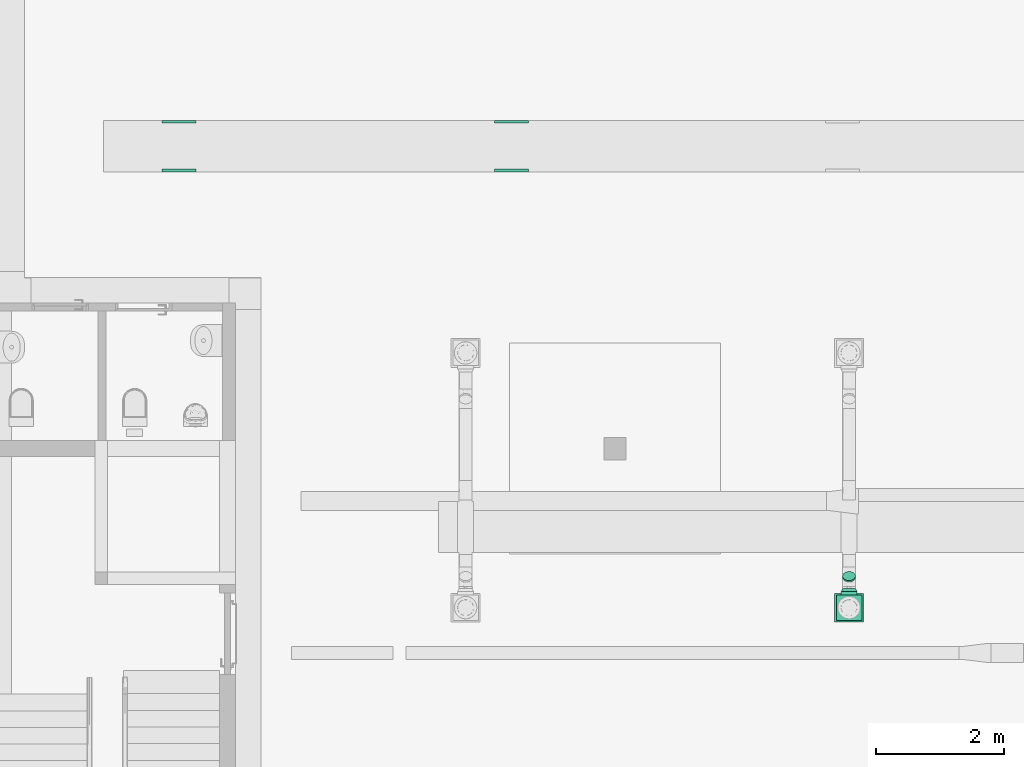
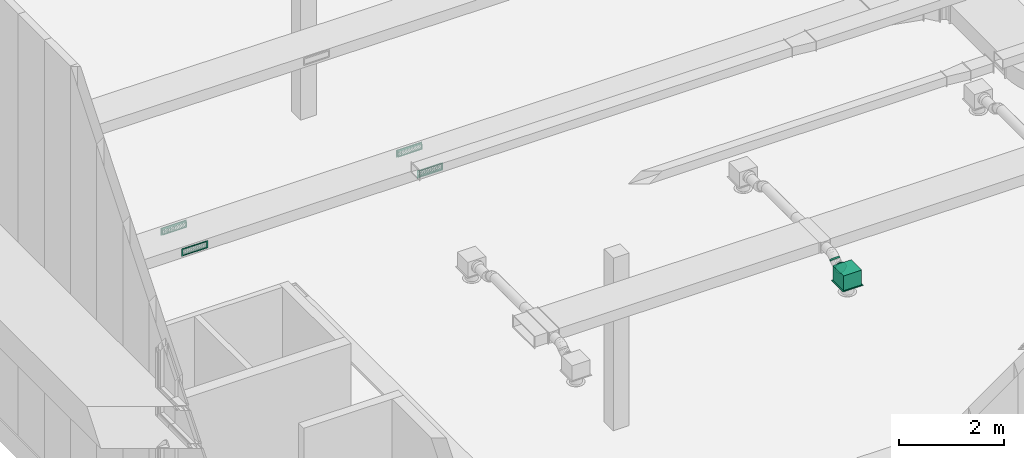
# One storey, part 261 of 302: 5 flow terminals, 1 flow fitting, 1 flow segment.
"""IFC2X3 building model written with IfcOpenShell, lengths in metres."""

import ifcopenshell
import ifcopenshell.guid

model = None  # the IFC model being written
_history = None  # IfcOwnerHistory: only IFC2X3 demands one
_inside = {}  # id of a spatial element -> (the spatial element, [elements in it])
_under = {}  # id of a project, library or spatial element -> (it, [spatial elements below it])
_declared = {}  # id of a project -> (the project, [libraries it declares])
_typed = {}  # id of a type object -> (the type object, [elements of that type])
_made_of = {}  # id of a material, layer set ... -> (it, [elements and type objects made of it])


def new_model(schema):
    """Start an empty IFC model of exactly this schema.

    Asked for "IFC4X3", IfcOpenShell would pick the latest addendum, in which some entities
    have other attributes; the version numbers below select the first issue.
    IFC2X3 requires an IfcOwnerHistory on every rooted entity: one is made here for all.
    """
    global model, _history
    if schema == "IFC4X3":
        model = ifcopenshell.file(schema_version=(4, 3, 0, 0))
    else:
        model = ifcopenshell.file(schema=schema)
    _inside.clear()
    _under.clear()
    _declared.clear()
    _typed.clear()
    _made_of.clear()
    _history = None
    if model.schema == "IFC2X3":
        org = make("IfcOrganization", Name="unknown")
        user = make(
            "IfcPersonAndOrganization",
            ThePerson=make("IfcPerson", FamilyName="unknown"),
            TheOrganization=org,
        )
        app = make(
            "IfcApplication",
            ApplicationDeveloper=org,
            Version="unknown",
            ApplicationFullName="unknown",
            ApplicationIdentifier="unknown",
        )
        _history = make(
            "IfcOwnerHistory",
            OwningUser=user,
            OwningApplication=app,
            ChangeAction="ADDED",
            CreationDate=0,
        )
    return model


def make(cls, **values):
    """One entity of the class cls with the attributes given. An attribute that is None is left unset."""
    return model.create_entity(
        cls, **{name: value for name, value in values.items() if value is not None}
    )


def entity(cls, *values):
    """Any entity or typed value of the class cls, its attributes in the order of the schema. None: left unset."""
    e = model.create_entity(cls)
    for i, value in enumerate(values):
        if value is not None:
            e[i] = value
    return e


def rooted(cls, **values):
    """An entity with a GlobalId (a new one), such as an element, a storey or a relation."""
    return make(cls, GlobalId=ifcopenshell.guid.new(), OwnerHistory=_history, **values)


def si_unit(unit_type, name, prefix=None):
    """IfcSIUnit, for example si_unit("LENGTHUNIT", "METRE", prefix="MILLI")."""
    return make("IfcSIUnit", UnitType=unit_type, Prefix=prefix, Name=name)


def converted_unit(unit_type, name, factor, base, dimensions=None, offset=None):
    """IfcConversionBasedUnit, such as the inch: factor (a typed value) times the base unit."""
    return make(
        "IfcConversionBasedUnit"
        if offset is None
        else "IfcConversionBasedUnitWithOffset",
        ConversionOffset=offset,
        Dimensions=None
        if dimensions is None
        else entity("IfcDimensionalExponents", *dimensions),
        UnitType=unit_type,
        Name=name,
        ConversionFactor=make(
            "IfcMeasureWithUnit", ValueComponent=factor, UnitComponent=base
        ),
    )


def derived_unit(unit_type, elements):
    """IfcDerivedUnit: a product of units, each with its exponent."""
    return make(
        "IfcDerivedUnit",
        Elements=[
            make("IfcDerivedUnitElement", Unit=unit, Exponent=power)
            for unit, power in elements
        ],
        UnitType=unit_type,
    )


def assignment(units):
    """IfcUnitAssignment: the units of a project."""
    return None if units is None else make("IfcUnitAssignment", Units=units)


def point(xyz):
    """IfcCartesianPoint."""
    return None if xyz is None else make("IfcCartesianPoint", Coordinates=xyz)


def direction(xyz):
    """IfcDirection."""
    return None if xyz is None else make("IfcDirection", DirectionRatios=xyz)


def frame(location, z_axis=None, x_axis=None):
    """IfcAxis2Placement3D, a coordinate frame: its origin and axes. An axis left out is left unset."""
    return make(
        "IfcAxis2Placement3D",
        Location=point(location),
        Axis=direction(z_axis),
        RefDirection=direction(x_axis),
    )


def frame_2d(location, x_axis=None):
    """IfcAxis2Placement2D, a coordinate frame in the plane: its origin and x axis."""
    return make(
        "IfcAxis2Placement2D", Location=point(location), RefDirection=direction(x_axis)
    )


def origin():
    """The frame at (0, 0, 0) with its axes left unset."""
    return frame((0.0, 0.0, 0.0))


def origin_2d_with_axis():
    """The frame at (0, 0) in the plane with the x axis (1, 0) written out."""
    return frame_2d((0.0, 0.0), x_axis=(1.0, 0.0))


def place(relative_to, where):
    """IfcLocalPlacement: puts the frame where relative to a parent placement (None: the world)."""
    return make(
        "IfcLocalPlacement", PlacementRelTo=relative_to, RelativePlacement=where
    )


def context(
    kind, dimensions, precision=None, world=None, true_north=None, identifier=None
):
    """IfcGeometricRepresentationContext, for example the 3D "Model" context."""
    return make(
        "IfcGeometricRepresentationContext",
        ContextIdentifier=identifier,
        ContextType=kind,
        CoordinateSpaceDimension=dimensions,
        Precision=precision,
        WorldCoordinateSystem=world,
        TrueNorth=true_north,
    )


def subcontext(parent, identifier, kind, view, scale=None):
    """IfcGeometricRepresentationSubContext, for example "Body" below "Model"."""
    return make(
        "IfcGeometricRepresentationSubContext",
        ContextIdentifier=identifier,
        ContextType=kind,
        ParentContext=parent,
        TargetScale=scale,
        TargetView=view,
    )


def project(units=None, contexts=None):
    """IfcProject with its units and contexts."""
    return rooted(
        "IfcProject",
        Name="project",
        RepresentationContexts=contexts,
        UnitsInContext=assignment(units),
    )


def spatial(cls, under=None, at=None, **own):
    """A site, building, storey or space (cls), placed at a placement, below another one or the project."""
    s = rooted(cls, ObjectPlacement=at, **own)
    if under is not None:
        _under.setdefault(under.id(), (under, []))[1].append(s)
    return s


def polyline(points):
    """IfcPolyline through the points."""
    return make("IfcPolyline", Points=[point(p) for p in points])


def circle_curve(where, radius):
    """IfcCircle in the frame where."""
    return make("IfcCircle", Position=where, Radius=radius)


def parameter(value):
    """IfcParameterValue: where a trimmed curve begins or ends, as a parameter of its basis curve."""
    return model.create_entity("IfcParameterValue", value)


def trimmed(basis, trim1, trim2, sense, master):
    """IfcTrimmedCurve: the piece of a basis curve between two trims."""
    return make(
        "IfcTrimmedCurve",
        BasisCurve=basis,
        Trim1=trim1,
        Trim2=trim2,
        SenseAgreement=sense,
        MasterRepresentation=master,
    )


def segment(curve, same_sense, transition):
    """IfcCompositeCurveSegment."""
    return make(
        "IfcCompositeCurveSegment",
        Transition=transition,
        SameSense=same_sense,
        ParentCurve=curve,
    )


def composite_curve(segments, self_intersect=None):
    """IfcCompositeCurve: segments joined end to end."""
    return make("IfcCompositeCurve", Segments=segments, SelfIntersect=self_intersect)


def profile(cls, at=None, kind="AREA", **sizes):
    """A parametric profile (cls). Its sizes go by their IFC names, for example OverallWidth=200.0."""
    return make(cls, ProfileType=kind, Position=at, **sizes)


def rectangle(**sizes):
    """IfcRectangleProfileDef."""
    return profile("IfcRectangleProfileDef", **sizes)


def circle(**sizes):
    """IfcCircleProfileDef."""
    return profile("IfcCircleProfileDef", **sizes)


def outline(outer, holes=None, kind="AREA"):
    """IfcArbitraryClosedProfileDef: a profile drawn as a closed curve; with holes, ...WithVoids."""
    if holes is None:
        return make("IfcArbitraryClosedProfileDef", ProfileType=kind, OuterCurve=outer)
    return make(
        "IfcArbitraryProfileDefWithVoids",
        ProfileType=kind,
        OuterCurve=outer,
        InnerCurves=holes,
    )


def extrude(swept, where, along, depth):
    """IfcExtrudedAreaSolid: the profile swept, set in the frame where, extruded along a direction by depth."""
    return make(
        "IfcExtrudedAreaSolid",
        SweptArea=swept,
        Position=where,
        ExtrudedDirection=direction(along),
        Depth=depth,
    )


def faces_of(points, faces, orient=None, outer=None):
    """IfcFace entities. A face is a list of loops; a loop is a list of indices into points, from 0.

    orient and outer hold one flag for each loop. By default every Orientation is true, the
    first loop of a face is its IfcFaceOuterBound and the others are IfcFaceBound.
    """
    made = []
    for i, loops in enumerate(faces):
        bounds = []
        for j, loop in enumerate(loops):
            is_outer = j == 0 if outer is None else outer[i][j]
            bounds.append(
                make(
                    "IfcFaceOuterBound" if is_outer else "IfcFaceBound",
                    Bound=make("IfcPolyLoop", Polygon=[points[k] for k in loop]),
                    Orientation=True if orient is None else orient[i][j],
                )
            )
        made.append(make("IfcFace", Bounds=bounds))
    return made


def faceted_brep(points, faces, orient=None, outer=None, voids=None):
    """IfcFacetedBrep: a solid bounded by flat faces; with voids (closed shells), ...WithVoids."""
    shared = [point(p) for p in points]
    hull = make("IfcClosedShell", CfsFaces=faces_of(shared, faces, orient, outer))
    if voids is None:
        return make("IfcFacetedBrep", Outer=hull)
    return make(
        "IfcFacetedBrepWithVoids",
        Outer=hull,
        Voids=[
            make(cls, CfsFaces=faces_of(shared, fs, o, b)) for cls, fs, o, b in voids
        ],
    )


def shape(context_of_items, identifier, shape_type, items):
    """IfcShapeRepresentation: the items that make up one representation, for example the "Body"."""
    return make(
        "IfcShapeRepresentation",
        ContextOfItems=context_of_items,
        RepresentationIdentifier=identifier,
        RepresentationType=shape_type,
        Items=items,
    )


def source(mapping_origin, context_of_items, identifier, shape_type, items):
    """IfcRepresentationMap: a shape defined once, which mapped items show again and again."""
    return make(
        "IfcRepresentationMap",
        MappingOrigin=mapping_origin,
        MappedRepresentation=shape(context_of_items, identifier, shape_type, items),
    )


def transform(
    local_origin,
    x_axis=None,
    y_axis=None,
    z_axis=None,
    scale=None,
    scale2=None,
    scale3=None,
    uniform=True,
):
    """IfcCartesianTransformationOperator3D, or its non-uniform kind. x_axis, y_axis, z_axis: its Axis1, 2, 3."""
    if uniform:
        return make(
            "IfcCartesianTransformationOperator3D",
            Axis1=direction(x_axis),
            Axis2=direction(y_axis),
            LocalOrigin=point(local_origin),
            Scale=scale,
            Axis3=direction(z_axis),
        )
    return make(
        "IfcCartesianTransformationOperator3DnonUniform",
        Axis1=direction(x_axis),
        Axis2=direction(y_axis),
        LocalOrigin=point(local_origin),
        Scale=scale,
        Axis3=direction(z_axis),
        Scale2=scale2,
        Scale3=scale3,
    )


def mapped(mapping_source, mapping_target):
    """IfcMappedItem: shows the shape of a source again, moved by a transform."""
    return make(
        "IfcMappedItem", MappingSource=mapping_source, MappingTarget=mapping_target
    )


def material(Name=None, Category=None):
    """IfcMaterial."""
    return make("IfcMaterial", Name=Name, Category=Category)


def material_list(materials):
    """IfcMaterialList."""
    return make("IfcMaterialList", Materials=materials)


def made_of(thing, what):
    """Note that an element or type object is made of a material, layer set ...; save() writes the relation."""
    if what is not None:
        _made_of.setdefault(what.id(), (what, []))[1].append(thing)
    return thing


def type_object(cls, material=None, **own):
    """A type object (cls), such as IfcWallType, which elements share."""
    return made_of(rooted(cls, **own), material)


def type_shapes(of_type, sources):
    """Give a type object the sources (RepresentationMaps) that its elements show as mapped items."""
    of_type.RepresentationMaps = sources


def element(
    cls,
    number,
    at=None,
    inside=None,
    cuts=None,
    type_object=None,
    material=None,
    context=None,
    identifier="Body",
    shape_type=None,
    held_by="IfcProductDefinitionShape",
    body=None,
    shapes=None,
    **own,
):
    """One element of the class cls, such as IfcWall. Its Tag is "e" and its number.

    at: its placement. inside: the storey or other place that contains it. cuts: it is an
    opening in that element (IfcRelVoidsElement). A single representation is given by context,
    identifier, shape_type and body (its items); several are given by shapes. held_by: the class
    of the entity that holds the representations. save() writes the other relations.
    """
    e = rooted(cls, Tag="e%d" % number, ObjectPlacement=at, **own)
    if body is not None:
        shapes = [shape(context, identifier, shape_type, body)]
    if shapes is not None:
        e.Representation = make(held_by, Representations=shapes)
    if inside is not None:
        _inside.setdefault(inside.id(), (inside, []))[1].append(e)
    if cuts is not None:
        rooted(
            "IfcRelVoidsElement", RelatingBuildingElement=cuts, RelatedOpeningElement=e
        )
    if type_object is not None:
        _typed.setdefault(type_object.id(), (type_object, []))[1].append(e)
    return made_of(e, material)


def aggregate(whole, parts):
    """IfcRelAggregates: a whole, such as a stair, and the parts it consists of."""
    return rooted("IfcRelAggregates", RelatingObject=whole, RelatedObjects=parts)


def save(model, path):
    """Write the relations noted so far, then the file.

    IfcRelAggregates (storeys below a building ...), IfcRelContainedInSpatialStructure (elements
    in a storey), IfcRelDefinesByType, IfcRelAssociatesMaterial and IfcRelDeclares: one each for
    every whole, place, type object, material and project.
    """
    for whole, parts in _under.values():
        aggregate(whole, parts)
    for where, things in _inside.values():
        rooted(
            "IfcRelContainedInSpatialStructure",
            RelatedElements=things,
            RelatingStructure=where,
        )
    for kind, things in _typed.values():
        rooted("IfcRelDefinesByType", RelatedObjects=things, RelatingType=kind)
    for what, things in _made_of.values():
        rooted("IfcRelAssociatesMaterial", RelatedObjects=things, RelatingMaterial=what)
    for by, libraries in _declared.values():
        rooted("IfcRelDeclares", RelatingContext=by, RelatedDefinitions=libraries)
    model.write(path)


model = new_model("IFC2X3")

# Units and contexts
model_context = context("Model", 3, precision=1e-05, world=origin(), true_north=direction((6.12303176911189e-17, 1.0)))
body_context = subcontext(model_context, "Body", "Model", "MODEL_VIEW")
ifc_project = project(units=[si_unit("LENGTHUNIT", "METRE"), si_unit("AREAUNIT", "SQUARE_METRE"), si_unit("VOLUMEUNIT", "CUBIC_METRE"), converted_unit("PLANEANGLEUNIT", "DEGREE", entity("IfcRatioMeasure", 0.0174532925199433), si_unit("PLANEANGLEUNIT", "RADIAN"), dimensions=[0, 0, 0, 0, 0, 0, 0]), si_unit("MASSUNIT", "GRAM", prefix="KILO"), derived_unit("MASSDENSITYUNIT", [(si_unit("MASSUNIT", "GRAM", prefix="KILO"), 1), (si_unit("LENGTHUNIT", "METRE"), -3)]), derived_unit("MOMENTOFINERTIAUNIT", [(si_unit("LENGTHUNIT", "METRE"), 4)]), si_unit("TIMEUNIT", "SECOND"), si_unit("FREQUENCYUNIT", "HERTZ"), si_unit("THERMODYNAMICTEMPERATUREUNIT", "DEGREE_CELSIUS"), derived_unit("THERMALTRANSMITTANCEUNIT", [(si_unit("MASSUNIT", "GRAM", prefix="KILO"), 1), (si_unit("THERMODYNAMICTEMPERATUREUNIT", "KELVIN"), -1), (si_unit("TIMEUNIT", "SECOND"), -3)]), derived_unit("VOLUMETRICFLOWRATEUNIT", [(si_unit("LENGTHUNIT", "METRE"), 3), (si_unit("TIMEUNIT", "SECOND"), -1)]), si_unit("ELECTRICCURRENTUNIT", "AMPERE"), si_unit("ELECTRICVOLTAGEUNIT", "VOLT"), si_unit("POWERUNIT", "WATT"), si_unit("FORCEUNIT", "NEWTON", prefix="KILO"), si_unit("ILLUMINANCEUNIT", "LUX"), si_unit("LUMINOUSFLUXUNIT", "LUMEN"), si_unit("LUMINOUSINTENSITYUNIT", "CANDELA"), derived_unit("USERDEFINED", [(si_unit("MASSUNIT", "GRAM", prefix="KILO"), -1), (si_unit("LENGTHUNIT", "METRE"), -2), (si_unit("TIMEUNIT", "SECOND"), 3), (si_unit("LUMINOUSFLUXUNIT", "LUMEN"), 1)]), derived_unit("LINEARVELOCITYUNIT", [(si_unit("LENGTHUNIT", "METRE"), 1), (si_unit("TIMEUNIT", "SECOND"), -1)]), si_unit("PRESSUREUNIT", "PASCAL"), derived_unit("USERDEFINED", [(si_unit("LENGTHUNIT", "METRE"), -2), (si_unit("MASSUNIT", "GRAM", prefix="KILO"), 1), (si_unit("TIMEUNIT", "SECOND"), -2)]), derived_unit("LINEARFORCEUNIT", [(si_unit("MASSUNIT", "GRAM", prefix="KILO"), 1), (si_unit("LENGTHUNIT", "METRE"), 1), (si_unit("TIMEUNIT", "SECOND"), -2), (si_unit("LENGTHUNIT", "METRE"), -1)]), derived_unit("PLANARFORCEUNIT", [(si_unit("MASSUNIT", "GRAM", prefix="KILO"), 1), (si_unit("LENGTHUNIT", "METRE"), 1), (si_unit("TIMEUNIT", "SECOND"), -2), (si_unit("LENGTHUNIT", "METRE"), -2)])], contexts=[model_context])

# Site, building, storey
site_placement = place(None, origin())
site = spatial("IfcSite", under=ifc_project, at=site_placement, Name="Default", CompositionType="ELEMENT")
building_placement = place(site_placement, origin())
building = spatial("IfcBuilding", under=site, at=building_placement, CompositionType="ELEMENT")
storey_placement = place(building_placement, frame((0.0, 0.0, -1.3)))
storey = spatial("IfcBuildingStorey", under=building, at=storey_placement, Name="00_EG", CompositionType="ELEMENT", Elevation=-1.3)

# Flow segment
duct_segment_type = type_object("IfcDuctSegmentType", Name="Rund:STR_Segment_RND_GS_EA", PredefinedType="NOTDEFINED")
flow_segment_placement = place(storey_placement, origin())
element("IfcFlowSegment", 1, at=flow_segment_placement, inside=storey, type_object=duct_segment_type, Name="Rund:STR_Segment_RND_GS_EA", ObjectType="Rund:STR_Segment_RND_GS_EA", context=body_context, shape_type="SweptSolid", body=[
    extrude(circle(Radius=0.1, at=frame_2d((0.0, -3.06281271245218e-15), x_axis=(1.0, 0.0))), frame((-253.062285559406, 21.4325516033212, 5.04357873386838), z_axis=(0.0, 0.707106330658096, 0.707107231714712), x_axis=(1.0, 0.0, 0.0)), (0.0, 0.0, 1.0), 0.0323041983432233),
])

# Flow terminal
ifc_material = material(Name="<Unnamed>")
ifc_material_list_1 = material_list([ifc_material, ifc_material, ifc_material])
air_terminal_type_1 = type_object("IfcAirTerminalType", Name="Drallauslass Zuluft seitlich:600 quadratisch", PredefinedType="NOTDEFINED", material=ifc_material_list_1)
shared_shape_1 = source(origin(), body_context, "Body", "SweptSolid", [
    extrude(rectangle(XDim=0.450000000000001, YDim=0.449999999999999, at=origin_2d_with_axis()), frame((0.0, 0.0, 2.692), z_axis=(0.0, 0.0, 1.0), x_axis=(0.0, 1.0, 0.0)), (0.0, 0.0, 1.0), 0.00800000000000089),
    extrude(circle(Radius=0.125, at=frame_2d((1.22275294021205e-18, -5.41433564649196e-16), x_axis=(1.0, 0.0))), frame((-0.25, 0.0, 2.89500000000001), z_axis=(1.0, 0.0, 0.0), x_axis=(0.0, -1.0, 0.0)), (0.0, 0.0, 1.0), 0.0499999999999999),
    extrude(rectangle(XDim=0.4, YDim=0.399999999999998, at=origin_2d_with_axis()), frame((0.0, 0.0, 2.7), z_axis=(0.0, 0.0, 1.0), x_axis=(0.0, 1.0, 0.0)), (0.0, 0.0, 1.0), 0.345000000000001),
])
type_shapes(air_terminal_type_1, [shared_shape_1])
flow_terminal_1_placement = place(storey_placement, frame((-253.062285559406, 20.9618155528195, 2.08999999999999), z_axis=(0.0, 0.0, 1.0), x_axis=(0.0, -1.0, 0.0)))
element("IfcFlowTerminal", 2, at=flow_terminal_1_placement, inside=storey, type_object=air_terminal_type_1, material=ifc_material, Name="Drallauslass Zuluft seitlich:600 quadratisch", ObjectType="Drallauslass Zuluft seitlich:600 quadratisch", context=body_context, shape_type="MappedRepresentation", body=[
    mapped(shared_shape_1, transform((0.0, 0.0, 0.0), scale=1.0)),
])

# Flow fitting
duct_fitting_type = type_object("IfcDuctFittingType", Name="STR_RND_Transition:STR_Transition_RND_GS_EA", PredefinedType="NOTDEFINED", material=ifc_material)
shared_shape_2 = source(origin(), body_context, "Body", "Brep", [
    faceted_brep([(0.0500000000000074, -0.0587785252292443, -0.0809016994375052), (0.0500000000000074, -0.0309016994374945, -0.0951056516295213), (0.0500000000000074, 0.0, -0.10000000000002), (0.0500000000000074, 0.0309016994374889, -0.0951056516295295), (0.0500000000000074, 0.058778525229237, -0.0809016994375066), (0.0500000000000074, 0.0809016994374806, -0.0587785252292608), (0.0500000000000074, 0.0951056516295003, -0.0309016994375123), (0.0500000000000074, 0.0999999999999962, 0.0), (0.0500000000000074, 0.0951056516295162, 0.0309016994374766), (0.0500000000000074, 0.0809016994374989, 0.0587785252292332), (0.0500000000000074, 0.0587785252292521, 0.0809016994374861), (0.0500000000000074, 0.0309016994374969, 0.0951056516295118), (0.0500000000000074, 0.0, 0.0999999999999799), (0.0500000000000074, -0.0309016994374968, 0.0951056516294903), (0.0500000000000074, -0.058778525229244, 0.0809016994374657), (0.0500000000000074, -0.0809016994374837, 0.0587785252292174), (0.0500000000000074, -0.0951056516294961, 0.0309016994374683), (0.0500000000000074, -0.100000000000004, 0.0), (0.0500000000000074, -0.0951056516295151, -0.030901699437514), (0.0500000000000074, -0.0809016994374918, -0.0587785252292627), (0.0, -0.124999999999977, 0.0), (0.0, -0.118882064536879, 0.038627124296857), (0.0, -0.101127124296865, 0.073473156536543), (0.0, -0.0734731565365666, 0.101127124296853), (0.0, -0.0386271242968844, 0.118882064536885), (0.0, 0.0, 0.125000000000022), (0.0, 0.0386271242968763, 0.11888206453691), (0.0, 0.0734731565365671, 0.101127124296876), (0.0, 0.101127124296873, 0.0734731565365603), (0.0, 0.118882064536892, 0.038627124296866), (0.0, 0.124999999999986, 0.0), (0.0, 0.118882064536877, -0.0386271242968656), (0.0, 0.101127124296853, -0.0734731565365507), (0.0, 0.0734731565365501, -0.101127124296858), (0.0, 0.0386271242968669, -0.118882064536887), (0.0, 0.0, -0.124999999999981), (0.0, -0.0386271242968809, -0.118882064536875), (0.0, -0.0734731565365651, -0.101127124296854), (0.0, -0.101127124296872, -0.0734731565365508), (0.0, -0.118882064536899, -0.0386271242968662)], [[[0, 1, 2, 3, 4, 5, 6, 7, 8, 9, 10, 11, 12, 13, 14, 15, 16, 17, 18, 19]], [[20, 21, 22, 23, 24, 25, 26, 27, 28, 29, 30, 31, 32, 33, 34, 35, 36, 37, 38, 39]], [[26, 25, 12, 11]], [[27, 26, 11, 10]], [[10, 9, 28, 27]], [[8, 7, 30, 29]], [[9, 8, 29, 28]], [[21, 20, 17, 16]], [[22, 21, 16, 15]], [[15, 14, 23, 22]], [[13, 12, 25, 24]], [[14, 13, 24, 23]], [[36, 35, 2, 1]], [[37, 36, 1, 0]], [[0, 19, 38, 37]], [[18, 17, 20, 39]], [[19, 18, 39, 38]], [[31, 30, 7, 6]], [[32, 31, 6, 5]], [[5, 4, 33, 32]], [[3, 2, 35, 34]], [[4, 3, 34, 33]]]),
])
type_shapes(duct_fitting_type, [shared_shape_2])
flow_fitting_placement = place(storey_placement, frame((-253.062285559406, 21.2118155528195, 4.985), z_axis=(0.0, 0.0, 1.0), x_axis=(0.0, 1.0, 0.0)))
element("IfcFlowFitting", 3, at=flow_fitting_placement, inside=storey, type_object=duct_fitting_type, material=ifc_material, Name="STR_RND_Transition:STR_Transition_RND_GS_EA", ObjectType="STR_RND_Transition:STR_Transition_RND_GS_EA", context=body_context, shape_type="MappedRepresentation", body=[
    mapped(shared_shape_2, transform((0.0, 0.0, 0.0), scale=1.0)),
])

# Flow terminals
ifc_material_list_2 = material_list([ifc_material, ifc_material, ifc_material, ifc_material, ifc_material, ifc_material, ifc_material, ifc_material, ifc_material, ifc_material, ifc_material, ifc_material, ifc_material, ifc_material, ifc_material, ifc_material, ifc_material, ifc_material, ifc_material])
ifc_material_list_3 = material_list([ifc_material, ifc_material, ifc_material, ifc_material, ifc_material, ifc_material, ifc_material, ifc_material, ifc_material, ifc_material, ifc_material, ifc_material, ifc_material, ifc_material, ifc_material, ifc_material, ifc_material, ifc_material, ifc_material])
air_terminal_type_2 = type_object("IfcAirTerminalType", Name="Kanallüftungsgitter Abluft:525 x 125", PredefinedType="NOTDEFINED", material=ifc_material_list_3)
shared_shape_3 = source(origin(), body_context, "Body", "SweptSolid", [
    extrude(outline(composite_curve([segment(polyline([(-0.00289554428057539, -0.00148147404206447), (0.00423714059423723, -0.00148147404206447)]), True, "CONTINUOUS"), segment(polyline([(0.00423714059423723, -0.00148147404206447), (-0.00134159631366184, 0.00296294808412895)]), True, "CONTINUOUS"), segment(trimmed(circle_curve(frame_2d((-0.00255940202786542, 0.000894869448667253), x_axis=(0.330047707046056, 0.943964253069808)), 0.0024), [parameter(348.779604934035)], [parameter(191.220395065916)], True, "PARAMETER"), True, "CONTINUOUS")], self_intersect=False)), frame((-0.0293780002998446, -0.2625, 0.0446428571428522), z_axis=(0.0, 1.0, 0.0), x_axis=(-0.943964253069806, 0.0, 0.330047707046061)), (0.0, 0.0, 1.0), 0.525),
    extrude(outline(composite_curve([segment(polyline([(-0.00289554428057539, -0.00148147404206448), (0.00423714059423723, -0.00148147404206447)]), True, "CONTINUOUS"), segment(polyline([(0.00423714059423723, -0.00148147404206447), (-0.00134159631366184, 0.00296294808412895)]), True, "CONTINUOUS"), segment(trimmed(circle_curve(frame_2d((-0.00255940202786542, 0.000894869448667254), x_axis=(0.330047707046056, 0.943964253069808)), 0.0024), [parameter(348.779604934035)], [parameter(191.220395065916)], True, "PARAMETER"), True, "CONTINUOUS")], self_intersect=False)), frame((-0.0293780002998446, -0.2625, 0.0267857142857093), z_axis=(0.0, 1.0, 0.0), x_axis=(-0.943964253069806, 0.0, 0.330047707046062)), (0.0, 0.0, 1.0), 0.525),
    extrude(outline(composite_curve([segment(polyline([(-0.00289554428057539, -0.00148147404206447), (0.00423714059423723, -0.00148147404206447)]), True, "CONTINUOUS"), segment(polyline([(0.00423714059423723, -0.00148147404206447), (-0.00134159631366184, 0.00296294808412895)]), True, "CONTINUOUS"), segment(trimmed(circle_curve(frame_2d((-0.00255940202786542, 0.000894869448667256), x_axis=(0.330047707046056, 0.943964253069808)), 0.0024), [parameter(348.779604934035)], [parameter(191.220395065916)], True, "PARAMETER"), True, "CONTINUOUS")], self_intersect=False)), frame((-0.0293780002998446, -0.2625, 0.00892857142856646), z_axis=(0.0, 1.0, 0.0), x_axis=(-0.943964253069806, 0.0, 0.330047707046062)), (0.0, 0.0, 1.0), 0.525),
    extrude(outline(composite_curve([segment(polyline([(-0.00289554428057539, -0.00148147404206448), (0.00423714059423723, -0.00148147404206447)]), True, "CONTINUOUS"), segment(polyline([(0.00423714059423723, -0.00148147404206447), (-0.00134159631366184, 0.00296294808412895)]), True, "CONTINUOUS"), segment(trimmed(circle_curve(frame_2d((-0.00255940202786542, 0.000894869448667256), x_axis=(0.330047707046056, 0.943964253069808)), 0.0024), [parameter(348.779604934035)], [parameter(191.220395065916)], True, "PARAMETER"), True, "CONTINUOUS")], self_intersect=False)), frame((-0.0293780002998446, -0.2625, -0.00892857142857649), z_axis=(0.0, 1.0, 0.0), x_axis=(-0.943964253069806, 0.0, 0.330047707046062)), (0.0, 0.0, 1.0), 0.525),
    extrude(outline(composite_curve([segment(polyline([(-0.00289554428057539, -0.00148147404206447), (0.00423714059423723, -0.00148147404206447)]), True, "CONTINUOUS"), segment(polyline([(0.00423714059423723, -0.00148147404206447), (-0.00134159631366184, 0.00296294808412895)]), True, "CONTINUOUS"), segment(trimmed(circle_curve(frame_2d((-0.00255940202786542, 0.000894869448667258), x_axis=(0.330047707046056, 0.943964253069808)), 0.0024), [parameter(348.779604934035)], [parameter(191.220395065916)], True, "PARAMETER"), True, "CONTINUOUS")], self_intersect=False)), frame((-0.0293780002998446, -0.2625, -0.0267857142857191), z_axis=(0.0, 1.0, 0.0), x_axis=(-0.943964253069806, 0.0, 0.330047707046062)), (0.0, 0.0, 1.0), 0.525),
    extrude(outline(composite_curve([segment(polyline([(-0.00289554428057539, -0.00148147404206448), (0.00423714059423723, -0.00148147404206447)]), True, "CONTINUOUS"), segment(polyline([(0.00423714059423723, -0.00148147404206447), (-0.00134159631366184, 0.00296294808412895)]), True, "CONTINUOUS"), segment(trimmed(circle_curve(frame_2d((-0.00255940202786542, 0.000894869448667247), x_axis=(0.330047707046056, 0.943964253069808)), 0.0024), [parameter(348.779604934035)], [parameter(191.220395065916)], True, "PARAMETER"), True, "CONTINUOUS")], self_intersect=False)), frame((-0.0293780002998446, -0.2625, -0.0446428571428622), z_axis=(0.0, 1.0, 0.0), x_axis=(-0.943964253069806, 0.0, 0.330047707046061)), (0.0, 0.0, 1.0), 0.525),
    extrude(outline(composite_curve([segment(trimmed(circle_curve(frame_2d((0.0, -0.00271133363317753), x_axis=(1.0, 0.0)), 0.0024), [parameter(168.779604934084)], [parameter(11.2203950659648)], True, "PARAMETER"), True, "CONTINUOUS"), segment(polyline([(0.00235412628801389, -0.00224433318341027), (0.0, 0.00448866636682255)]), True, "CONTINUOUS"), segment(polyline([(0.0, 0.00448866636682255), (-0.00235412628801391, -0.00224433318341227)]), True, "CONTINUOUS")], self_intersect=False)), frame((-0.0160446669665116, 0.218750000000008, -0.0625), z_axis=(0.0, 0.0, 1.0), x_axis=(0.0, 1.0, 0.0)), (0.0, 0.0, 1.0), 0.125),
    extrude(outline(composite_curve([segment(trimmed(circle_curve(frame_2d((0.0, -0.00271133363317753), x_axis=(1.0, 0.0)), 0.0024), [parameter(168.779604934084)], [parameter(11.2203950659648)], True, "PARAMETER"), True, "CONTINUOUS"), segment(polyline([(0.00235412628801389, -0.00224433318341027), (0.0, 0.00448866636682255)]), True, "CONTINUOUS"), segment(polyline([(0.0, 0.00448866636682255), (-0.00235412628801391, -0.00224433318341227)]), True, "CONTINUOUS")], self_intersect=False)), frame((-0.0160446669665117, 0.175000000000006, -0.0625), z_axis=(0.0, 0.0, 1.0), x_axis=(0.0, 1.0, 0.0)), (0.0, 0.0, 1.0), 0.125),
    extrude(outline(composite_curve([segment(trimmed(circle_curve(frame_2d((0.0, -0.00271133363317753), x_axis=(1.0, 0.0)), 0.0024), [parameter(168.779604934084)], [parameter(11.2203950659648)], True, "PARAMETER"), True, "CONTINUOUS"), segment(polyline([(0.00235412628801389, -0.00224433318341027), (0.0, 0.00448866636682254)]), True, "CONTINUOUS"), segment(polyline([(0.0, 0.00448866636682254), (-0.00235412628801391, -0.00224433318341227)]), True, "CONTINUOUS")], self_intersect=False)), frame((-0.0160446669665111, 0.131250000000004, -0.0625), z_axis=(0.0, 0.0, 1.0), x_axis=(0.0, 1.0, 0.0)), (0.0, 0.0, 1.0), 0.125),
    extrude(outline(composite_curve([segment(trimmed(circle_curve(frame_2d((0.0, -0.00271133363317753), x_axis=(1.0, 0.0)), 0.0024), [parameter(168.779604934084)], [parameter(11.2203950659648)], True, "PARAMETER"), True, "CONTINUOUS"), segment(polyline([(0.00235412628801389, -0.00224433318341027), (0.0, 0.00448866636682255)]), True, "CONTINUOUS"), segment(polyline([(0.0, 0.00448866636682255), (-0.0023541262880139, -0.00224433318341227)]), True, "CONTINUOUS")], self_intersect=False)), frame((-0.0160446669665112, 0.0875000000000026, -0.0624999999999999), z_axis=(0.0, 0.0, 1.0), x_axis=(0.0, 1.0, 0.0)), (0.0, 0.0, 1.0), 0.125),
    extrude(outline(composite_curve([segment(trimmed(circle_curve(frame_2d((0.0, -0.00271133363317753), x_axis=(1.0, 0.0)), 0.0024), [parameter(168.779604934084)], [parameter(11.2203950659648)], True, "PARAMETER"), True, "CONTINUOUS"), segment(polyline([(0.00235412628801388, -0.00224433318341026), (0.0, 0.00448866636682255)]), True, "CONTINUOUS"), segment(polyline([(0.0, 0.00448866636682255), (-0.00235412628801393, -0.00224433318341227)]), True, "CONTINUOUS")], self_intersect=False)), frame((-0.0160446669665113, 0.0437500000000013, -0.0624999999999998), z_axis=(0.0, 0.0, 1.0), x_axis=(0.0, 1.0, 0.0)), (0.0, 0.0, 1.0), 0.125),
    extrude(outline(composite_curve([segment(trimmed(circle_curve(frame_2d((0.0, -0.00271133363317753), x_axis=(1.0, 0.0)), 0.0024), [parameter(168.779604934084)], [parameter(11.2203950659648)], True, "PARAMETER"), True, "CONTINUOUS"), segment(polyline([(0.00235412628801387, -0.00224433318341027), (0.0, 0.00448866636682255)]), True, "CONTINUOUS"), segment(polyline([(0.0, 0.00448866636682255), (-0.00235412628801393, -0.00224433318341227)]), True, "CONTINUOUS")], self_intersect=False)), frame((-0.0160446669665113, 0.0, -0.0624999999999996), z_axis=(0.0, 0.0, 1.0), x_axis=(0.0, 1.0, 0.0)), (0.0, 0.0, 1.0), 0.125),
    extrude(outline(composite_curve([segment(trimmed(circle_curve(frame_2d((0.0, -0.00271133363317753), x_axis=(1.0, 0.0)), 0.0024), [parameter(168.779604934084)], [parameter(11.2203950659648)], True, "PARAMETER"), True, "CONTINUOUS"), segment(polyline([(0.00235412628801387, -0.00224433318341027), (0.0, 0.00448866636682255)]), True, "CONTINUOUS"), segment(polyline([(0.0, 0.00448866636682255), (-0.00235412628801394, -0.00224433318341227)]), True, "CONTINUOUS")], self_intersect=False)), frame((-0.0160446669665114, -0.0437499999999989, -0.0624999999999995), z_axis=(0.0, 0.0, 1.0), x_axis=(0.0, 1.0, 0.0)), (0.0, 0.0, 1.0), 0.125),
    extrude(outline(composite_curve([segment(trimmed(circle_curve(frame_2d((0.0, -0.00271133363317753), x_axis=(1.0, 0.0)), 0.0024), [parameter(168.779604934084)], [parameter(11.2203950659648)], True, "PARAMETER"), True, "CONTINUOUS"), segment(polyline([(0.00235412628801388, -0.00224433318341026), (0.0, 0.00448866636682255)]), True, "CONTINUOUS"), segment(polyline([(0.0, 0.00448866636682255), (-0.00235412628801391, -0.00224433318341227)]), True, "CONTINUOUS")], self_intersect=False)), frame((-0.0160446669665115, -0.0874999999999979, -0.0624999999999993), z_axis=(0.0, 0.0, 1.0), x_axis=(0.0, 1.0, 0.0)), (0.0, 0.0, 1.0), 0.125),
    extrude(outline(composite_curve([segment(trimmed(circle_curve(frame_2d((0.0, -0.00271133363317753), x_axis=(1.0, 0.0)), 0.0024), [parameter(168.779604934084)], [parameter(11.2203950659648)], True, "PARAMETER"), True, "CONTINUOUS"), segment(polyline([(0.00235412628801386, -0.00224433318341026), (0.0, 0.00448866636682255)]), True, "CONTINUOUS"), segment(polyline([(0.0, 0.00448866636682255), (-0.00235412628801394, -0.00224433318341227)]), True, "CONTINUOUS")], self_intersect=False)), frame((-0.0160446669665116, -0.131249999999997, -0.0624999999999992), z_axis=(0.0, 0.0, 1.0), x_axis=(0.0, 1.0, 0.0)), (0.0, 0.0, 1.0), 0.125),
    extrude(outline(composite_curve([segment(trimmed(circle_curve(frame_2d((0.0, -0.00271133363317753), x_axis=(1.0, 0.0)), 0.0024), [parameter(168.779604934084)], [parameter(11.2203950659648)], True, "PARAMETER"), True, "CONTINUOUS"), segment(polyline([(0.00235412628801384, -0.00224433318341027), (0.0, 0.00448866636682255)]), True, "CONTINUOUS"), segment(polyline([(0.0, 0.00448866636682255), (-0.00235412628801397, -0.00224433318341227)]), True, "CONTINUOUS")], self_intersect=False)), frame((-0.0160446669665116, -0.174999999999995, -0.062499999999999), z_axis=(0.0, 0.0, 1.0), x_axis=(0.0, 1.0, 0.0)), (0.0, 0.0, 1.0), 0.125),
    extrude(outline(composite_curve([segment(trimmed(circle_curve(frame_2d((0.0, -0.00271133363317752), x_axis=(1.0, 0.0)), 0.0024), [parameter(168.779604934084)], [parameter(11.2203950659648)], True, "PARAMETER"), True, "CONTINUOUS"), segment(polyline([(0.00235412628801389, -0.00224433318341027), (0.0, 0.00448866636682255)]), True, "CONTINUOUS"), segment(polyline([(0.0, 0.00448866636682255), (-0.00235412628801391, -0.00224433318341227)]), True, "CONTINUOUS")], self_intersect=False)), frame((-0.0160446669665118, -0.218749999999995, -0.0624999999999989), z_axis=(0.0, 0.0, 1.0), x_axis=(0.0, 1.0, 0.0)), (0.0, 0.0, 1.0), 0.125),
    extrude(outline(polyline([(-0.0665, -0.2665), (0.0665, -0.2665), (0.0665, 0.2665), (-0.0665, 0.2665), (-0.0665, -0.2665)]), holes=[polyline([(-0.0625000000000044, -0.2625), (-0.0625000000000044, 0.262499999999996), (0.062500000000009, 0.262499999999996), (0.062500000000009, -0.2625), (-0.0625000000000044, -0.2625)])]), frame((-0.04, 0.0, 0.0), z_axis=(1.0, 0.0, 0.0), x_axis=(0.0, 0.0, -1.0)), (0.0, 0.0, 1.0), 0.04),
    extrude(outline(polyline([(-0.0875, -0.2875), (0.0875, -0.2875), (0.0875, 0.2875), (-0.0875, 0.2875), (-0.0875, -0.2875)]), holes=[polyline([(-0.0625, -0.262499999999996), (-0.0625, 0.262500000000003), (0.0625000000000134, 0.262500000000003), (0.0625000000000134, -0.262499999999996), (-0.0625, -0.262499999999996)])]), frame((0.0, 0.0, 0.0), z_axis=(1.0, 0.0, 0.0), x_axis=(0.0, 0.0, -1.0)), (0.0, 0.0, 1.0), 0.005),
])
type_shapes(air_terminal_type_2, [shared_shape_3])
flow_terminal_2_placement = place(storey_placement, frame((-258.343365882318, 28.5787086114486, 5.12499999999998), z_axis=(0.0, 0.0, -1.0), x_axis=(0.0, 1.0, 0.0)))
element("IfcFlowTerminal", 4, at=flow_terminal_2_placement, inside=storey, type_object=air_terminal_type_2, material=ifc_material_list_2, Name="Kanallüftungsgitter Abluft:525 x 125", ObjectType="Kanallüftungsgitter Abluft:525 x 125", context=body_context, shape_type="MappedRepresentation", body=[
    mapped(shared_shape_3, transform((0.0, 0.0, 0.0), scale=1.0)),
])
for number, where, z_axis, x_axis, name in (
    (5, (-258.343365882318, 27.7787086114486, 5.12499999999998), (0.0, 0.0, 1.0), (0.0, -1.0, 0.0), "Kanallüftungsgitter Abluft:525 x 125"),
    (6, (-263.543244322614, 28.5787086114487, 5.12499999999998), (0.0, 0.0, -1.0), (0.0, 1.0, 0.0), "Kanallüftungsgitter Abluft:525 x 125"),
    (7, (-263.543244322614, 27.7787086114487, 5.12499999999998), (0.0, 0.0, 1.0), (0.0, -1.0, 0.0), "Kanallüftungsgitter Abluft:525 x 125"),
):
    element("IfcFlowTerminal", number, at=place(storey_placement, frame(where, z_axis=z_axis, x_axis=x_axis)), inside=storey, type_object=air_terminal_type_2, material=ifc_material, Name=name, ObjectType="Kanallüftungsgitter Abluft:525 x 125", context=body_context, shape_type="MappedRepresentation", body=[
        mapped(shared_shape_3, transform((0.0, 0.0, 0.0), scale=1.0)),
    ])

save(model, "model.ifc")
